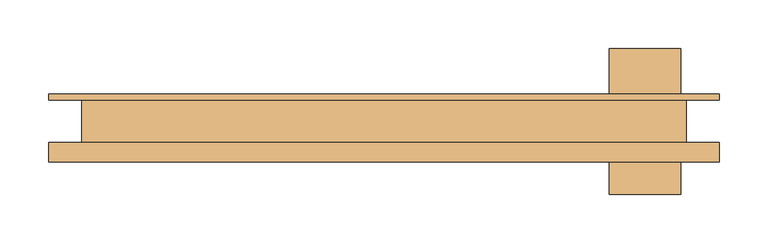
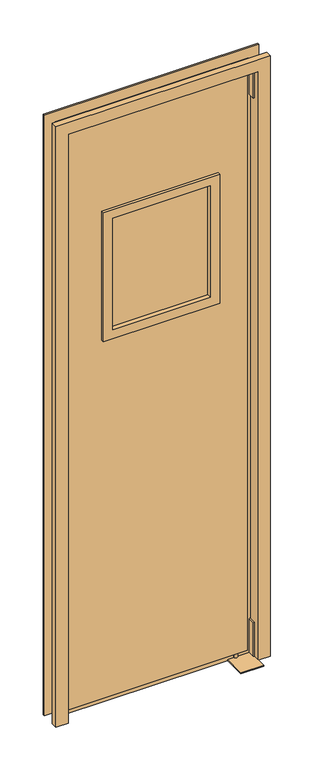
"""IFC4 building model written with IfcOpenShell, lengths in millimetres: door geometry, 片開きスイングドア_窓付_SCG : W610xH2005xt21."""

import ifcopenshell
import ifcopenshell.guid

model = None  # the IFC model being written
_history = None  # IfcOwnerHistory: only IFC2X3 demands one
_inside = {}  # id of a spatial element -> (the spatial element, [elements in it])
_under = {}  # id of a project, library or spatial element -> (it, [spatial elements below it])
_declared = {}  # id of a project -> (the project, [libraries it declares])
_typed = {}  # id of a type object -> (the type object, [elements of that type])
_made_of = {}  # id of a material, layer set ... -> (it, [elements and type objects made of it])


def new_model(schema):
    """Start an empty IFC model of exactly this schema.

    Asked for "IFC4X3", IfcOpenShell would pick the latest addendum, in which some entities
    have other attributes; the version numbers below select the first issue.
    IFC2X3 requires an IfcOwnerHistory on every rooted entity: one is made here for all.
    """
    global model, _history
    if schema == "IFC4X3":
        model = ifcopenshell.file(schema_version=(4, 3, 0, 0))
    else:
        model = ifcopenshell.file(schema=schema)
    _inside.clear()
    _under.clear()
    _declared.clear()
    _typed.clear()
    _made_of.clear()
    _history = None
    if model.schema == "IFC2X3":
        org = make("IfcOrganization", Name="unknown")
        user = make(
            "IfcPersonAndOrganization",
            ThePerson=make("IfcPerson", FamilyName="unknown"),
            TheOrganization=org,
        )
        app = make(
            "IfcApplication",
            ApplicationDeveloper=org,
            Version="unknown",
            ApplicationFullName="unknown",
            ApplicationIdentifier="unknown",
        )
        _history = make(
            "IfcOwnerHistory",
            OwningUser=user,
            OwningApplication=app,
            ChangeAction="ADDED",
            CreationDate=0,
        )
    return model


def make(cls, **values):
    """One entity of the class cls with the attributes given. An attribute that is None is left unset."""
    return model.create_entity(
        cls, **{name: value for name, value in values.items() if value is not None}
    )


def rooted(cls, **values):
    """An entity with a GlobalId (a new one), such as an element, a storey or a relation."""
    return make(cls, GlobalId=ifcopenshell.guid.new(), OwnerHistory=_history, **values)


def si_unit(unit_type, name, prefix=None):
    """IfcSIUnit, for example si_unit("LENGTHUNIT", "METRE", prefix="MILLI")."""
    return make("IfcSIUnit", UnitType=unit_type, Prefix=prefix, Name=name)


def assignment(units):
    """IfcUnitAssignment: the units of a project."""
    return None if units is None else make("IfcUnitAssignment", Units=units)


def point(xyz):
    """IfcCartesianPoint."""
    return None if xyz is None else make("IfcCartesianPoint", Coordinates=xyz)


def direction(xyz):
    """IfcDirection."""
    return None if xyz is None else make("IfcDirection", DirectionRatios=xyz)


def frame(location, z_axis=None, x_axis=None):
    """IfcAxis2Placement3D, a coordinate frame: its origin and axes. An axis left out is left unset."""
    return make(
        "IfcAxis2Placement3D",
        Location=point(location),
        Axis=direction(z_axis),
        RefDirection=direction(x_axis),
    )


def frame_2d(location, x_axis=None):
    """IfcAxis2Placement2D, a coordinate frame in the plane: its origin and x axis."""
    return make(
        "IfcAxis2Placement2D", Location=point(location), RefDirection=direction(x_axis)
    )


def origin():
    """The frame at (0, 0, 0) with its axes left unset."""
    return frame((0.0, 0.0, 0.0))


def place(relative_to, where):
    """IfcLocalPlacement: puts the frame where relative to a parent placement (None: the world)."""
    return make(
        "IfcLocalPlacement", PlacementRelTo=relative_to, RelativePlacement=where
    )


def context(
    kind, dimensions, precision=None, world=None, true_north=None, identifier=None
):
    """IfcGeometricRepresentationContext, for example the 3D "Model" context."""
    return make(
        "IfcGeometricRepresentationContext",
        ContextIdentifier=identifier,
        ContextType=kind,
        CoordinateSpaceDimension=dimensions,
        Precision=precision,
        WorldCoordinateSystem=world,
        TrueNorth=true_north,
    )


def project(units=None, contexts=None):
    """IfcProject with its units and contexts."""
    return rooted(
        "IfcProject",
        Name="project",
        RepresentationContexts=contexts,
        UnitsInContext=assignment(units),
    )


def spatial(cls, under=None, at=None, **own):
    """A site, building, storey or space (cls), placed at a placement, below another one or the project."""
    s = rooted(cls, ObjectPlacement=at, **own)
    if under is not None:
        _under.setdefault(under.id(), (under, []))[1].append(s)
    return s


def polyline(points):
    """IfcPolyline through the points."""
    return make("IfcPolyline", Points=[point(p) for p in points])


def circle_curve(where, radius):
    """IfcCircle in the frame where."""
    return make("IfcCircle", Position=where, Radius=radius)


def trimmed(basis, trim1, trim2, sense, master):
    """IfcTrimmedCurve: the piece of a basis curve between two trims."""
    return make(
        "IfcTrimmedCurve",
        BasisCurve=basis,
        Trim1=trim1,
        Trim2=trim2,
        SenseAgreement=sense,
        MasterRepresentation=master,
    )


def segment(curve, same_sense, transition):
    """IfcCompositeCurveSegment."""
    return make(
        "IfcCompositeCurveSegment",
        Transition=transition,
        SameSense=same_sense,
        ParentCurve=curve,
    )


def composite_curve(segments, self_intersect=None):
    """IfcCompositeCurve: segments joined end to end."""
    return make("IfcCompositeCurve", Segments=segments, SelfIntersect=self_intersect)


def outline(outer, holes=None, kind="AREA"):
    """IfcArbitraryClosedProfileDef: a profile drawn as a closed curve; with holes, ...WithVoids."""
    if holes is None:
        return make("IfcArbitraryClosedProfileDef", ProfileType=kind, OuterCurve=outer)
    return make(
        "IfcArbitraryProfileDefWithVoids",
        ProfileType=kind,
        OuterCurve=outer,
        InnerCurves=holes,
    )


def extrude(swept, where, along, depth):
    """IfcExtrudedAreaSolid: the profile swept, set in the frame where, extruded along a direction by depth."""
    return make(
        "IfcExtrudedAreaSolid",
        SweptArea=swept,
        Position=where,
        ExtrudedDirection=direction(along),
        Depth=depth,
    )


def faces_of(points, faces, orient=None, outer=None):
    """IfcFace entities. A face is a list of loops; a loop is a list of indices into points, from 0.

    orient and outer hold one flag for each loop. By default every Orientation is true, the
    first loop of a face is its IfcFaceOuterBound and the others are IfcFaceBound.
    """
    made = []
    for i, loops in enumerate(faces):
        bounds = []
        for j, loop in enumerate(loops):
            is_outer = j == 0 if outer is None else outer[i][j]
            bounds.append(
                make(
                    "IfcFaceOuterBound" if is_outer else "IfcFaceBound",
                    Bound=make("IfcPolyLoop", Polygon=[points[k] for k in loop]),
                    Orientation=True if orient is None else orient[i][j],
                )
            )
        made.append(make("IfcFace", Bounds=bounds))
    return made


def faceted_brep(points, faces, orient=None, outer=None, voids=None):
    """IfcFacetedBrep: a solid bounded by flat faces; with voids (closed shells), ...WithVoids."""
    shared = [point(p) for p in points]
    hull = make("IfcClosedShell", CfsFaces=faces_of(shared, faces, orient, outer))
    if voids is None:
        return make("IfcFacetedBrep", Outer=hull)
    return make(
        "IfcFacetedBrepWithVoids",
        Outer=hull,
        Voids=[
            make(cls, CfsFaces=faces_of(shared, fs, o, b)) for cls, fs, o, b in voids
        ],
    )


def shape(context_of_items, identifier, shape_type, items):
    """IfcShapeRepresentation: the items that make up one representation, for example the "Body"."""
    return make(
        "IfcShapeRepresentation",
        ContextOfItems=context_of_items,
        RepresentationIdentifier=identifier,
        RepresentationType=shape_type,
        Items=items,
    )


def source(mapping_origin, context_of_items, identifier, shape_type, items):
    """IfcRepresentationMap: a shape defined once, which mapped items show again and again."""
    return make(
        "IfcRepresentationMap",
        MappingOrigin=mapping_origin,
        MappedRepresentation=shape(context_of_items, identifier, shape_type, items),
    )


def transform(
    local_origin,
    x_axis=None,
    y_axis=None,
    z_axis=None,
    scale=None,
    scale2=None,
    scale3=None,
    uniform=True,
):
    """IfcCartesianTransformationOperator3D, or its non-uniform kind. x_axis, y_axis, z_axis: its Axis1, 2, 3."""
    if uniform:
        return make(
            "IfcCartesianTransformationOperator3D",
            Axis1=direction(x_axis),
            Axis2=direction(y_axis),
            LocalOrigin=point(local_origin),
            Scale=scale,
            Axis3=direction(z_axis),
        )
    return make(
        "IfcCartesianTransformationOperator3DnonUniform",
        Axis1=direction(x_axis),
        Axis2=direction(y_axis),
        LocalOrigin=point(local_origin),
        Scale=scale,
        Axis3=direction(z_axis),
        Scale2=scale2,
        Scale3=scale3,
    )


def mapped(mapping_source, mapping_target):
    """IfcMappedItem: shows the shape of a source again, moved by a transform."""
    return make(
        "IfcMappedItem", MappingSource=mapping_source, MappingTarget=mapping_target
    )


def made_of(thing, what):
    """Note that an element or type object is made of a material, layer set ...; save() writes the relation."""
    if what is not None:
        _made_of.setdefault(what.id(), (what, []))[1].append(thing)
    return thing


def element(
    cls,
    number,
    at=None,
    inside=None,
    cuts=None,
    type_object=None,
    material=None,
    context=None,
    identifier="Body",
    shape_type=None,
    held_by="IfcProductDefinitionShape",
    body=None,
    shapes=None,
    **own,
):
    """One element of the class cls, such as IfcWall. Its Tag is "e" and its number.

    at: its placement. inside: the storey or other place that contains it. cuts: it is an
    opening in that element (IfcRelVoidsElement). A single representation is given by context,
    identifier, shape_type and body (its items); several are given by shapes. held_by: the class
    of the entity that holds the representations. save() writes the other relations.
    """
    e = rooted(cls, Tag="e%d" % number, ObjectPlacement=at, **own)
    if body is not None:
        shapes = [shape(context, identifier, shape_type, body)]
    if shapes is not None:
        e.Representation = make(held_by, Representations=shapes)
    if inside is not None:
        _inside.setdefault(inside.id(), (inside, []))[1].append(e)
    if cuts is not None:
        rooted(
            "IfcRelVoidsElement", RelatingBuildingElement=cuts, RelatedOpeningElement=e
        )
    if type_object is not None:
        _typed.setdefault(type_object.id(), (type_object, []))[1].append(e)
    return made_of(e, material)


def aggregate(whole, parts):
    """IfcRelAggregates: a whole, such as a stair, and the parts it consists of."""
    return rooted("IfcRelAggregates", RelatingObject=whole, RelatedObjects=parts)


def save(model, path):
    """Write the relations noted so far, then the file.

    IfcRelAggregates (storeys below a building ...), IfcRelContainedInSpatialStructure (elements
    in a storey), IfcRelDefinesByType, IfcRelAssociatesMaterial and IfcRelDeclares: one each for
    every whole, place, type object, material and project.
    """
    for whole, parts in _under.values():
        aggregate(whole, parts)
    for where, things in _inside.values():
        rooted(
            "IfcRelContainedInSpatialStructure",
            RelatedElements=things,
            RelatingStructure=where,
        )
    for kind, things in _typed.values():
        rooted("IfcRelDefinesByType", RelatedObjects=things, RelatingType=kind)
    for what, things in _made_of.values():
        rooted("IfcRelAssociatesMaterial", RelatedObjects=things, RelatingMaterial=what)
    for by, libraries in _declared.values():
        rooted("IfcRelDeclares", RelatingContext=by, RelatedDefinitions=libraries)
    model.write(path)


def door_a06cd3e7(model_context):
    return source(origin(), model_context, "Body", "SolidModel", [
        extrude(outline(polyline([(2005.0, 305.0), (2005.0, -305.0), (0.0, -305.0), (0.0, 305.0), (2005.0, 305.0)]), holes=[polyline([(20.0, 289.5), (20.0, -289.5), (1985.0, -289.5), (1985.0, 289.5), (20.0, 289.5)])]), frame((0.0, -1.0, 0.0), z_axis=(0.0, 1.0, 0.0), x_axis=(0.0, 0.0, 1.0)), (0.0, 0.0, 1.0), 2.0),
        faceted_brep([(-305.0, 28.000005, 0.0), (-305.0, -42.0, 0.0), (-344.999995, -42.0, 0.0), (-344.999995, -22.0, 0.0), (-311.0, -22.0, 0.0), (-311.0, 22.0, 0.0), (-344.999995, 22.0, 0.0), (-344.999995, 28.000005, 0.0), (-344.999995, 28.000005, 2044.999995), (344.999995, 28.000005, 2044.999995), (344.999995, 28.000005, 0.0), (305.0, 28.000005, 0.0), (305.0, 28.000005, 2005.0), (-305.0, 28.000005, 2005.0), (-344.999995, 22.0, 2044.999995), (-311.0, 22.0, 2011.0), (311.0, 22.0, 2011.0), (311.0, 22.0, 0.0), (344.999995, 22.0, 0.0), (344.999995, 22.0, 2044.999995), (-311.0, -22.0, 2011.0), (-344.999995, -22.0, 2044.999995), (344.999995, -22.0, 2044.999995), (344.999995, -22.0, 0.0), (311.0, -22.0, 0.0), (311.0, -22.0, 2011.0), (-344.999995, -42.0, 2044.999995), (-305.0, -42.0, 2005.0), (305.0, -42.0, 2005.0), (305.0, -42.0, 0.0), (344.999995, -42.0, 0.0), (344.999995, -42.0, 2044.999995)], [[[0, 1, 2, 3, 4, 5, 6, 7]], [[7, 8, 9, 10, 11, 12, 13, 0]], [[6, 14, 8, 7]], [[5, 15, 16, 17, 18, 19, 14, 6]], [[4, 20, 15, 5]], [[3, 21, 22, 23, 24, 25, 20, 4]], [[2, 26, 21, 3]], [[1, 27, 28, 29, 30, 31, 26, 2]], [[0, 13, 27, 1]], [[12, 11, 29, 28]], [[11, 10, 18, 17, 24, 23, 30, 29]], [[19, 18, 10, 9]], [[25, 24, 17, 16]], [[31, 30, 23, 22]], [[20, 25, 16, 15]], [[26, 31, 22, 21]], [[13, 12, 28, 27]], [[14, 19, 9, 8]]]),
        extrude(outline(polyline([(166.5, 2.5), (166.5, -2.5), (-148.5, -2.5), (-148.5, 2.5), (166.5, 2.5)])), frame((0.0, 0.0, 1270.0), z_axis=(0.0, 0.0, 1.0), x_axis=(1.0, 0.0, 0.0)), (0.0, 0.0, 1.0), 380.0),
        extrude(outline(polyline([(1680.0, -178.5), (1240.0, -178.5), (1240.0, 196.5), (1680.0, 196.5), (1680.0, -178.5)]), holes=[polyline([(1270.0, -148.5), (1650.0, -148.5), (1650.0, 166.5), (1270.0, 166.5), (1270.0, -148.5)])]), frame((0.0, -18.5, 0.0), z_axis=(0.0, 1.0, 0.0), x_axis=(0.0, 0.0, 1.0)), (0.0, 0.0, 1.0), 37.0),
        extrude(outline(polyline([(2001.00012, 134.99968), (2001.00012, 300.99982), (1905.00036, 300.99982), (1905.00036, 305.0), (2005.0, 305.0), (2005.0, 134.99968), (2001.00012, 134.99968)])), frame((0.0, -25.0, 0.0), z_axis=(0.0, 1.0, 0.0), x_axis=(0.0, 0.0, 1.0)), (0.0, 0.0, 1.0), 50.0),
        extrude(outline(composite_curve([segment(trimmed(circle_curve(frame_2d((257.999995, 0.0)), 6.5), [point((257.999995, 6.5))], [point((257.999995, -6.5))], False, "CARTESIAN"), True, "CONTINUOUS"), segment(trimmed(circle_curve(frame_2d((257.999995, 0.0)), 6.5), [point((257.999995, -6.5))], [point((257.999995, 6.5))], False, "CARTESIAN"), True, "CONTINUOUS")], self_intersect=False)), frame((0.0, 0.0, 1985.0), z_axis=(0.0, 0.0, 1.0), x_axis=(1.0, 0.0, 0.0)), (0.0, 0.0, 1.0), 16.00012),
        extrude(outline(composite_curve([segment(trimmed(circle_curve(frame_2d((257.999995, 0.0)), 6.5), [point((251.499995, 0.0))], [point((264.499995, 0.0))], False, "CARTESIAN"), True, "CONTINUOUS"), segment(trimmed(circle_curve(frame_2d((257.999995, 0.0)), 6.5), [point((264.499995, 0.0))], [point((251.499995, 0.0))], False, "CARTESIAN"), True, "CONTINUOUS")], self_intersect=False)), frame((0.0, 0.0, 4.0), z_axis=(0.0, 0.0, 1.0), x_axis=(1.0, 0.0, 0.0)), (0.0, 0.0, 1.0), 16.0),
        faceted_brep([(301.00032, 25.0, 120.0), (305.0, 25.0, 120.0), (305.0, 25.0, 4.0), (301.00032, 25.0, 4.0), (301.00032, -25.0, 120.0), (301.00032, -25.0, 4.0), (305.0, -25.0, 4.0), (305.0, -25.0, 120.0), (305.0, -75.0, 4.0), (305.0, -75.0, 0.0), (305.0, 75.0, 0.0), (305.0, 75.0, 4.0), (231.50032, -75.0, 0.0), (231.50032, 75.0, 0.0), (231.50032, -75.0, 4.0), (231.50032, 75.0, 4.0)], [[[0, 1, 2, 3]], [[4, 5, 6, 7]], [[0, 4, 7, 1]], [[7, 6, 8, 9, 10, 11, 2, 1]], [[9, 12, 13, 10]], [[12, 14, 15, 13]], [[14, 8, 6, 5, 3, 2, 11, 15]], [[3, 5, 4, 0]], [[15, 11, 10, 13]], [[14, 12, 9, 8]]]),
        extrude(outline(polyline([(1985.0, -289.5), (20.0, -289.5), (20.0, 289.5), (1985.0, 289.5), (1985.0, -289.5)]), holes=[polyline([(1680.0, -178.5), (1680.0, 196.5), (1240.0, 196.5), (1240.0, -178.5), (1680.0, -178.5)])]), frame((0.0, -10.5, 0.0), z_axis=(0.0, 1.0, 0.0), x_axis=(0.0, 0.0, 1.0)), (0.0, 0.0, 1.0), 21.0),
    ])


if __name__ == "__main__":
    model = new_model("IFC4")
    model_context = context("Model", 3, world=origin())
    ifc_project = project(units=[si_unit("LENGTHUNIT", "METRE", prefix="MILLI")], contexts=[model_context])
    site = spatial("IfcSite", under=ifc_project)
    building = spatial("IfcBuilding", under=site)
    placement = place(None, origin())
    door_shape = door_a06cd3e7(model_context)
    element("IfcDoor", 1, ObjectType="片開きスイングドア_窓付_SCG : W610xH2005xt21", at=placement, inside=building, context=model_context, shape_type="MappedRepresentation", body=[
        mapped(door_shape, transform((0.0, 0.0, 0.0), x_axis=(1.0, 0.0, 0.0), y_axis=(0.0, 1.0, 0.0), z_axis=(0.0, 0.0, 1.0))),
    ])
    save(model, "model.ifc")
